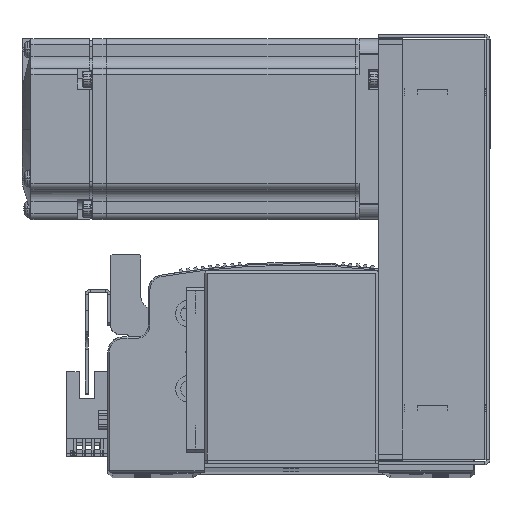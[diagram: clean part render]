
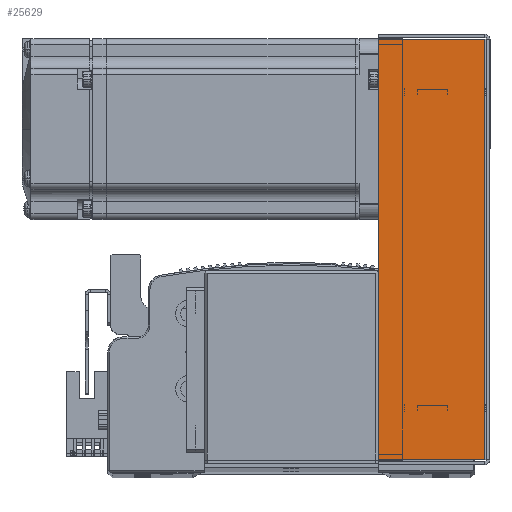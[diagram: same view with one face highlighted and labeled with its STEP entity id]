
A CAD part, top view. The second image highlights one B-rep face of the part: STEP entity #25629.
In plain terms, the highlighted planar face has unit normal (0, 0, 1) as drawn and (0, 0, -1) by its records, which use the part's own axes.
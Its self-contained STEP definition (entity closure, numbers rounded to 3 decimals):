
#3531 = CARTESIAN_POINT ( 'NONE',  ( 69.793, 36., -33.5 ) ) ;
#3581 = CARTESIAN_POINT ( 'NONE',  ( -69.793, 0.737, -33.5 ) ) ;
#3644 = CARTESIAN_POINT ( 'NONE',  ( -69.793, 36., -33.5 ) ) ;
#4050 = CARTESIAN_POINT ( 'NONE',  ( 69.793, 0.737, -33.5 ) ) ;
#25629 = ADVANCED_FACE ( 'NONE', ( #39447 ), #72883, .F. ) ;
#30768 = VECTOR ( 'NONE', #36469, 1000. ) ;
#30855 = LINE ( 'NONE', #36447, #30768 ) ;
#30891 = VECTOR ( 'NONE', #36405, 1000. ) ;
#30907 = LINE ( 'NONE', #36391, #30891 ) ;
#30968 = LINE ( 'NONE', #36745, #30999 ) ;
#30999 = VECTOR ( 'NONE', #36757, 1000. ) ;
#31000 = LINE ( 'NONE', #36873, #31036 ) ;
#31036 = VECTOR ( 'NONE', #36918, 1000. ) ;
#36391 = CARTESIAN_POINT ( 'NONE',  ( 0., 36., -33.5 ) ) ;
#36405 = DIRECTION ( 'NONE',  ( 1., 0., 0. ) ) ;
#36447 = CARTESIAN_POINT ( 'NONE',  ( 71.5, 0.737, -33.5 ) ) ;
#36469 = DIRECTION ( 'NONE',  ( 1., 0., 0. ) ) ;
#36745 = CARTESIAN_POINT ( 'NONE',  ( -69.793, 0., -33.5 ) ) ;
#36757 = DIRECTION ( 'NONE',  ( 0., 1., 0. ) ) ;
#36873 = CARTESIAN_POINT ( 'NONE',  ( 69.793, 0., -33.5 ) ) ;
#36918 = DIRECTION ( 'NONE',  ( 0., 1., 0. ) ) ;
#39447 = FACE_OUTER_BOUND ( 'NONE', #63128, .T. ) ;
#44729 = AXIS2_PLACEMENT_3D ( 'NONE', #72899, #72870, #72955 ) ;
#63128 = EDGE_LOOP ( 'NONE', ( #71226, #71155, #71006, #71200 ) ) ;
#68474 = EDGE_CURVE ( 'NONE', #84760, #84865, #30855, .T. ) ;
#68484 = EDGE_CURVE ( 'NONE', #84832, #84780, #30907, .T. ) ;
#68601 = EDGE_CURVE ( 'NONE', #84760, #84832, #30968, .T. ) ;
#68641 = EDGE_CURVE ( 'NONE', #84865, #84780, #31000, .T. ) ;
#71006 = ORIENTED_EDGE ( 'NONE', *, *, #68484, .T. ) ;
#71155 = ORIENTED_EDGE ( 'NONE', *, *, #68601, .T. ) ;
#71200 = ORIENTED_EDGE ( 'NONE', *, *, #68641, .F. ) ;
#71226 = ORIENTED_EDGE ( 'NONE', *, *, #68474, .F. ) ;
#72870 = DIRECTION ( 'NONE',  ( 0., 0., 1. ) ) ;
#72883 = PLANE ( 'NONE',  #44729 ) ;
#72899 = CARTESIAN_POINT ( 'NONE',  ( 0., 0., -33.5 ) ) ;
#72955 = DIRECTION ( 'NONE',  ( 0., -1., 0. ) ) ;
#84760 = VERTEX_POINT ( 'NONE', #3581 ) ;
#84780 = VERTEX_POINT ( 'NONE', #3531 ) ;
#84832 = VERTEX_POINT ( 'NONE', #3644 ) ;
#84865 = VERTEX_POINT ( 'NONE', #4050 ) ;
